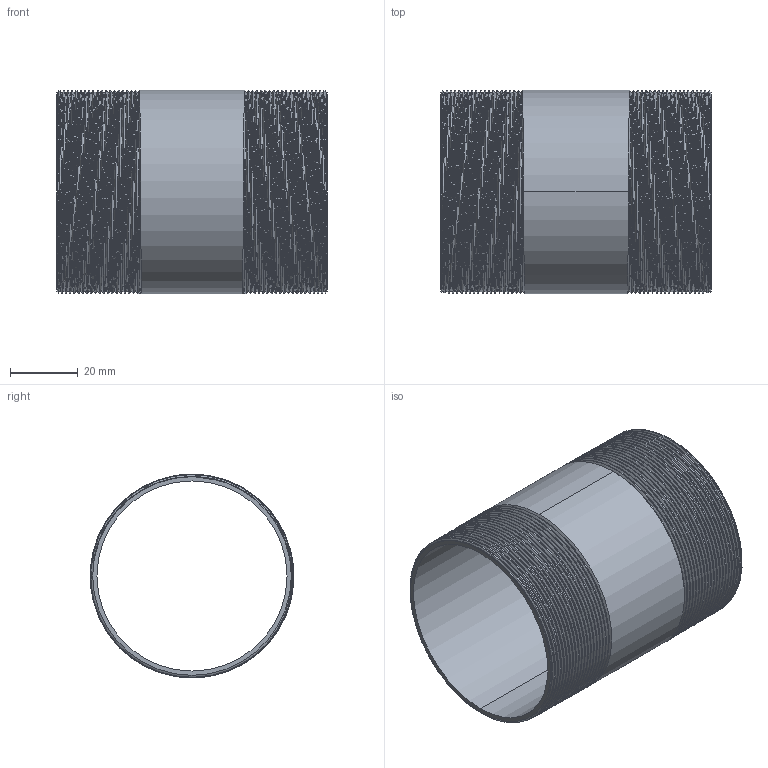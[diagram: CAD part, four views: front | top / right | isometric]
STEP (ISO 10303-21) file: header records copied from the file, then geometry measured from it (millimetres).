
FILE_DESCRIPTION (( 'STEP AP203' ), '1' );
FILE_NAME ('3D_R210_2x80_17148610.STEP', '2024-08-16T10:13:46', ( '' ), ( '' ), 'SwSTEP 2.0', 'SolidWorks 2024', '' );
FILE_SCHEMA (( 'CONFIG_CONTROL_DESIGN' ));
Length unit declared in the file: millimetre
Products named in the file (1): 3D_R210_2x80_17148610
Bounding box: 80 x 60.2 x 60.3 mm (x, y, z)
Volume: 25435.1 mm3; surface area: 34646 mm2
Topology: 1 solids, 1 shells, 98 faces, 280 edges, 184 vertices
Faces by surface type: cone 84, bspline 6, cylinder 4, plane 4
Entity records: 18321 total; most frequent: CARTESIAN_POINT 16045, ORIENTED_EDGE 560, DIRECTION 308, EDGE_CURVE 280, VERTEX_POINT 184, B_SPLINE_CURVE_WITH_KNOTS 164, AXIS2_PLACEMENT_3D 107, EDGE_LOOP 100
